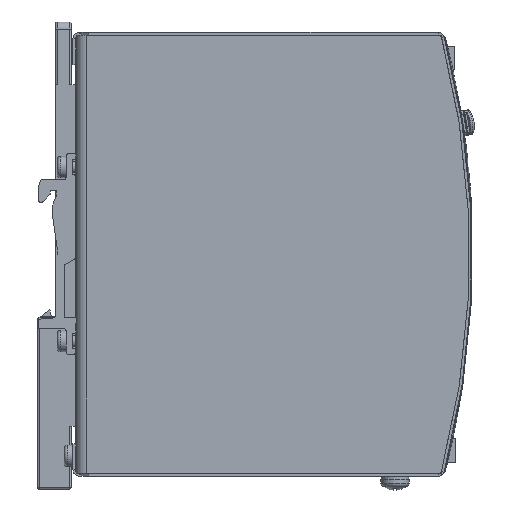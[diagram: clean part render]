
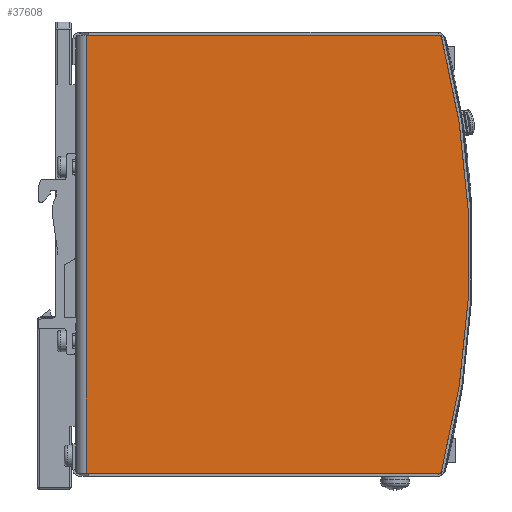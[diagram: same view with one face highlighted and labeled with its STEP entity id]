
A CAD part, front view. The second image highlights one B-rep face of the part: STEP entity #37608.
In plain terms, the highlighted planar face has unit normal (0, -1, 0) as drawn and (1, 0, 0) by its records, which use the part's own axes.
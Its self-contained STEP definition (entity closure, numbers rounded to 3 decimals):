
#1193=PLANE('',#39998);
#2911=FACE_OUTER_BOUND('',#4846,.T.);
#4846=EDGE_LOOP('',(#26630,#26631,#26632,#26633));
#7404=LINE('',#52076,#12299);
#7405=LINE('',#52078,#12300);
#7406=LINE('',#52079,#12301);
#12299=VECTOR('',#42417,10.);
#12300=VECTOR('',#42418,10.);
#12301=VECTOR('',#42419,10.);
#17183=CIRCLE('',#39997,240.);
#17610=VERTEX_POINT('',#52069);
#17611=VERTEX_POINT('',#52071);
#17612=VERTEX_POINT('',#52075);
#17613=VERTEX_POINT('',#52077);
#21194=EDGE_CURVE('',#17611,#17610,#17183,.T.);
#21196=EDGE_CURVE('',#17610,#17612,#7404,.T.);
#21197=EDGE_CURVE('',#17613,#17612,#7405,.T.);
#21198=EDGE_CURVE('',#17613,#17611,#7406,.T.);
#26630=ORIENTED_EDGE('',*,*,#21194,.T.);
#26631=ORIENTED_EDGE('',*,*,#21196,.T.);
#26632=ORIENTED_EDGE('',*,*,#21197,.F.);
#26633=ORIENTED_EDGE('',*,*,#21198,.T.);
#37608=ADVANCED_FACE('',(#2911),#1193,.T.);
#39997=AXIS2_PLACEMENT_3D('',#52072,#42412,#42413);
#39998=AXIS2_PLACEMENT_3D('',#52074,#42415,#42416);
#42412=DIRECTION('center_axis',(1.,0.,0.));
#42413=DIRECTION('ref_axis',(0.,0.,1.));
#42415=DIRECTION('center_axis',(1.,0.,0.));
#42416=DIRECTION('ref_axis',(0.,0.,-1.));
#42417=DIRECTION('',(0.,0.,1.));
#42418=DIRECTION('',(0.,1.,0.));
#42419=DIRECTION('',(0.,0.,-1.));
#52069=CARTESIAN_POINT('',(21.,61.15,-100.579));
#52071=CARTESIAN_POINT('',(21.,-61.15,-100.579));
#52072=CARTESIAN_POINT('Origin',(21.,0.,131.5));
#52074=CARTESIAN_POINT('Origin',(21.,61.15,1.5));
#52075=CARTESIAN_POINT('',(21.,61.15,-1.5));
#52076=CARTESIAN_POINT('',(21.,61.15,-128.5));
#52077=CARTESIAN_POINT('',(21.,-61.15,-1.5));
#52078=CARTESIAN_POINT('',(21.,61.15,-1.5));
#52079=CARTESIAN_POINT('',(21.,-61.15,-128.5));
